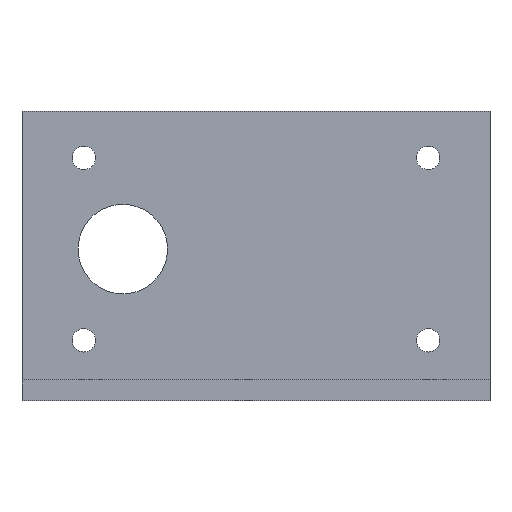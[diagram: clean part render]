
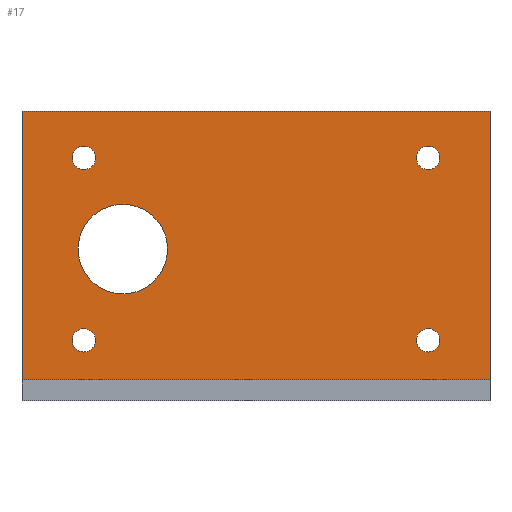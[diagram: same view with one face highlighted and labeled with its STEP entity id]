
A CAD part, left-side view. The second image highlights one B-rep face of the part: STEP entity #17.
In plain terms, the highlighted planar face has unit normal (-1, 0, 0).
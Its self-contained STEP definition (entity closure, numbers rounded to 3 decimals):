
#17 = ADVANCED_FACE('',(#18,#52,#63,#74,#85,#96),#107,.F.);
#18 = FACE_BOUND('',#19,.F.);
#19 = EDGE_LOOP('',(#20,#30,#38,#46));
#20 = ORIENTED_EDGE('',*,*,#21,.F.);
#21 = EDGE_CURVE('',#22,#24,#26,.T.);
#22 = VERTEX_POINT('',#23);
#23 = CARTESIAN_POINT('',(86.,26.65,21.));
#24 = VERTEX_POINT('',#25);
#25 = CARTESIAN_POINT('',(86.,26.65,60.));
#26 = LINE('',#27,#28);
#27 = CARTESIAN_POINT('',(86.,26.65,21.));
#28 = VECTOR('',#29,1.);
#29 = DIRECTION('',(0.,0.,1.));
#30 = ORIENTED_EDGE('',*,*,#31,.T.);
#31 = EDGE_CURVE('',#22,#32,#34,.T.);
#32 = VERTEX_POINT('',#33);
#33 = CARTESIAN_POINT('',(86.,94.65,21.));
#34 = LINE('',#35,#36);
#35 = CARTESIAN_POINT('',(86.,26.65,21.));
#36 = VECTOR('',#37,1.);
#37 = DIRECTION('',(0.,1.,0.));
#38 = ORIENTED_EDGE('',*,*,#39,.T.);
#39 = EDGE_CURVE('',#32,#40,#42,.T.);
#40 = VERTEX_POINT('',#41);
#41 = CARTESIAN_POINT('',(86.,94.65,60.));
#42 = LINE('',#43,#44);
#43 = CARTESIAN_POINT('',(86.,94.65,21.));
#44 = VECTOR('',#45,1.);
#45 = DIRECTION('',(0.,0.,1.));
#46 = ORIENTED_EDGE('',*,*,#47,.F.);
#47 = EDGE_CURVE('',#24,#40,#48,.T.);
#48 = LINE('',#49,#50);
#49 = CARTESIAN_POINT('',(86.,26.65,60.));
#50 = VECTOR('',#51,1.);
#51 = DIRECTION('',(0.,1.,0.));
#52 = FACE_BOUND('',#53,.F.);
#53 = EDGE_LOOP('',(#54));
#54 = ORIENTED_EDGE('',*,*,#55,.F.);
#55 = EDGE_CURVE('',#56,#56,#58,.T.);
#56 = VERTEX_POINT('',#57);
#57 = CARTESIAN_POINT('',(86.,85.65,28.45));
#58 = CIRCLE('',#59,1.7);
#59 = AXIS2_PLACEMENT_3D('',#60,#61,#62);
#60 = CARTESIAN_POINT('',(86.,85.65,26.75));
#61 = DIRECTION('',(1.,0.,-0.));
#62 = DIRECTION('',(0.,0.,1.));
#63 = FACE_BOUND('',#64,.F.);
#64 = EDGE_LOOP('',(#65));
#65 = ORIENTED_EDGE('',*,*,#66,.F.);
#66 = EDGE_CURVE('',#67,#67,#69,.T.);
#67 = VERTEX_POINT('',#68);
#68 = CARTESIAN_POINT('',(86.,80.,46.5));
#69 = CIRCLE('',#70,6.5);
#70 = AXIS2_PLACEMENT_3D('',#71,#72,#73);
#71 = CARTESIAN_POINT('',(86.,80.,40.));
#72 = DIRECTION('',(1.,0.,-0.));
#73 = DIRECTION('',(0.,0.,1.));
#74 = FACE_BOUND('',#75,.F.);
#75 = EDGE_LOOP('',(#76));
#76 = ORIENTED_EDGE('',*,*,#77,.F.);
#77 = EDGE_CURVE('',#78,#78,#80,.T.);
#78 = VERTEX_POINT('',#79);
#79 = CARTESIAN_POINT('',(86.,85.65,54.95));
#80 = CIRCLE('',#81,1.7);
#81 = AXIS2_PLACEMENT_3D('',#82,#83,#84);
#82 = CARTESIAN_POINT('',(86.,85.65,53.25));
#83 = DIRECTION('',(1.,0.,-0.));
#84 = DIRECTION('',(0.,0.,1.));
#85 = FACE_BOUND('',#86,.F.);
#86 = EDGE_LOOP('',(#87));
#87 = ORIENTED_EDGE('',*,*,#88,.F.);
#88 = EDGE_CURVE('',#89,#89,#91,.T.);
#89 = VERTEX_POINT('',#90);
#90 = CARTESIAN_POINT('',(86.,35.65,28.45));
#91 = CIRCLE('',#92,1.7);
#92 = AXIS2_PLACEMENT_3D('',#93,#94,#95);
#93 = CARTESIAN_POINT('',(86.,35.65,26.75));
#94 = DIRECTION('',(1.,0.,-0.));
#95 = DIRECTION('',(0.,0.,1.));
#96 = FACE_BOUND('',#97,.F.);
#97 = EDGE_LOOP('',(#98));
#98 = ORIENTED_EDGE('',*,*,#99,.F.);
#99 = EDGE_CURVE('',#100,#100,#102,.T.);
#100 = VERTEX_POINT('',#101);
#101 = CARTESIAN_POINT('',(86.,35.65,54.95));
#102 = CIRCLE('',#103,1.7);
#103 = AXIS2_PLACEMENT_3D('',#104,#105,#106);
#104 = CARTESIAN_POINT('',(86.,35.65,53.25));
#105 = DIRECTION('',(1.,0.,-0.));
#106 = DIRECTION('',(0.,0.,1.));
#107 = PLANE('',#108);
#108 = AXIS2_PLACEMENT_3D('',#109,#110,#111);
#109 = CARTESIAN_POINT('',(86.,26.65,21.));
#110 = DIRECTION('',(1.,0.,0.));
#111 = DIRECTION('',(0.,0.,1.));
